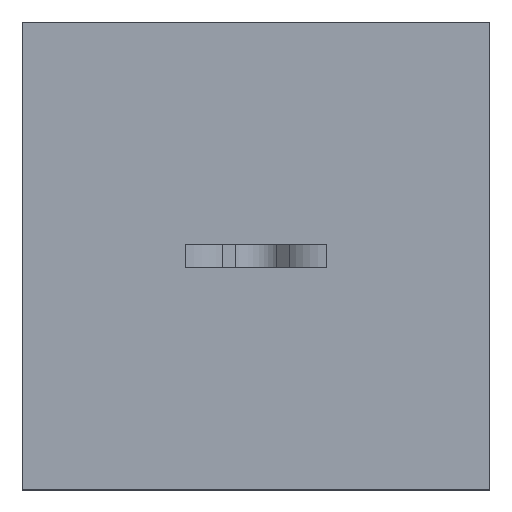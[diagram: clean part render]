
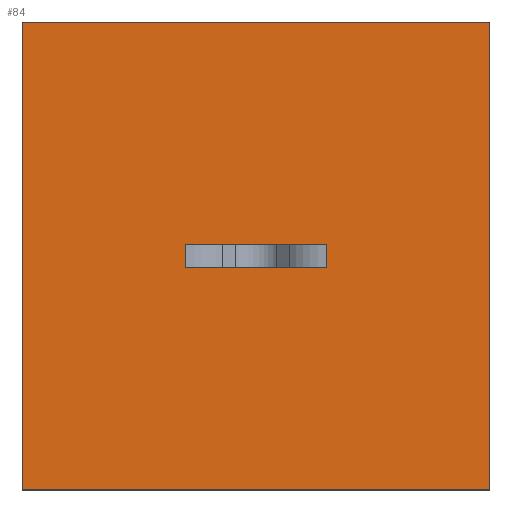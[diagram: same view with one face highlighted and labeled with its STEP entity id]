
A CAD part, top view. The second image highlights one B-rep face of the part: STEP entity #84.
In plain terms, the highlighted planar face has unit normal (0, 0, 1).
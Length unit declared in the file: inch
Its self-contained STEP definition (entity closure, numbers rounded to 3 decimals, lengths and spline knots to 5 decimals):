
#84=ADVANCED_FACE('',(#115,#116),#117,.F.);
#115=FACE_OUTER_BOUND('',#157,.T.);
#116=FACE_BOUND('',#158,.T.);
#117=PLANE('',#159);
#157=EDGE_LOOP('',(#267,#268,#269,#270));
#158=EDGE_LOOP('',(#271,#272,#273,#274));
#159=AXIS2_PLACEMENT_3D('',#275,#276,#277);
#267=ORIENTED_EDGE('',*,*,#355,.T.);
#268=ORIENTED_EDGE('',*,*,#358,.T.);
#269=ORIENTED_EDGE('',*,*,#370,.T.);
#270=ORIENTED_EDGE('',*,*,#371,.T.);
#271=ORIENTED_EDGE('',*,*,#398,.F.);
#272=ORIENTED_EDGE('',*,*,#378,.T.);
#273=ORIENTED_EDGE('',*,*,#399,.T.);
#274=ORIENTED_EDGE('',*,*,#376,.F.);
#275=CARTESIAN_POINT('',(5.98473,1.16227,3.662));
#276=DIRECTION('',(0.,0.,-1.0));
#277=DIRECTION('',(-1.0,0.,0.));
#355=EDGE_CURVE('',#409,#413,#415,.T.);
#358=EDGE_CURVE('',#413,#418,#420,.T.);
#370=EDGE_CURVE('',#418,#440,#442,.T.);
#371=EDGE_CURVE('',#440,#409,#443,.T.);
#376=EDGE_CURVE('',#450,#445,#452,.T.);
#378=EDGE_CURVE('',#456,#454,#457,.T.);
#398=EDGE_CURVE('',#456,#450,#490,.T.);
#399=EDGE_CURVE('',#454,#445,#491,.T.);
#409=VERTEX_POINT('',#501);
#413=VERTEX_POINT('',#507);
#415=LINE('',#510,#511);
#418=VERTEX_POINT('',#515);
#420=LINE('',#518,#519);
#440=VERTEX_POINT('',#549);
#442=LINE('',#552,#553);
#443=LINE('',#554,#555);
#445=VERTEX_POINT('',#557);
#450=VERTEX_POINT('',#564);
#452=LINE('',#566,#567);
#454=VERTEX_POINT('',#569);
#456=VERTEX_POINT('',#571);
#457=LINE('',#572,#573);
#490=LINE('',#616,#617);
#491=LINE('',#618,#619);
#501=CARTESIAN_POINT('',(-7.01527,0.06227,3.662));
#507=CARTESIAN_POINT('',(-5.01527,0.06227,3.662));
#510=CARTESIAN_POINT('',(-6111.68072,0.06227,3.662));
#511=VECTOR('',#639,1.);
#515=CARTESIAN_POINT('',(-5.01527,2.06227,3.662));
#518=CARTESIAN_POINT('',(-5.01527,13977.50098,3.662));
#519=VECTOR('',#642,1.);
#549=CARTESIAN_POINT('',(-7.01527,2.06227,3.662));
#552=CARTESIAN_POINT('',(-22615.47991,2.06227,3.662));
#553=VECTOR('',#654,1.);
#554=CARTESIAN_POINT('',(-7.01527,15819.72848,3.662));
#555=VECTOR('',#655,1.);
#557=CARTESIAN_POINT('',(-5.71527,1.01227,3.662));
#564=CARTESIAN_POINT('',(-6.31527,1.01227,3.662));
#566=CARTESIAN_POINT('',(-6.31527,1.01227,3.662));
#567=VECTOR('',#664,0.6);
#569=CARTESIAN_POINT('',(-5.71527,1.11227,3.662));
#571=CARTESIAN_POINT('',(-6.31527,1.11227,3.662));
#572=CARTESIAN_POINT('',(-6.31527,1.11227,3.662));
#573=VECTOR('',#668,0.6);
#616=CARTESIAN_POINT('',(-6.31527,1.11227,3.662));
#617=VECTOR('',#706,0.1);
#618=CARTESIAN_POINT('',(-5.71527,1.11227,3.662));
#619=VECTOR('',#707,0.1);
#639=DIRECTION('',(1.0,0.0,0.));
#642=DIRECTION('',(0.,1.0,0.));
#654=DIRECTION('',(-1.0,0.0,0.));
#655=DIRECTION('',(0.,-1.0,0.));
#664=DIRECTION('',(1.0,0.,0.));
#668=DIRECTION('',(1.0,0.,0.));
#706=DIRECTION('',(0.,-1.0,0.));
#707=DIRECTION('',(0.,-1.0,0.));
